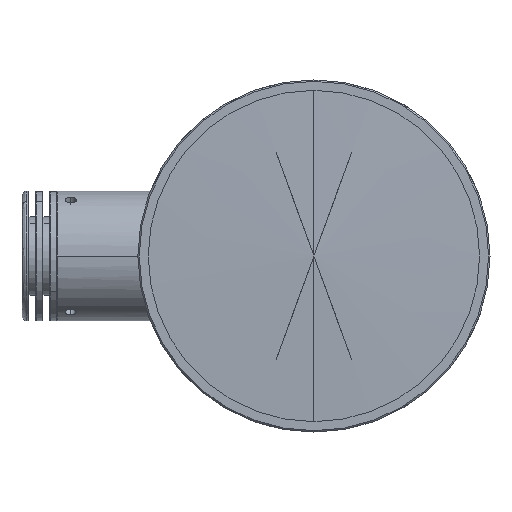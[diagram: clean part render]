
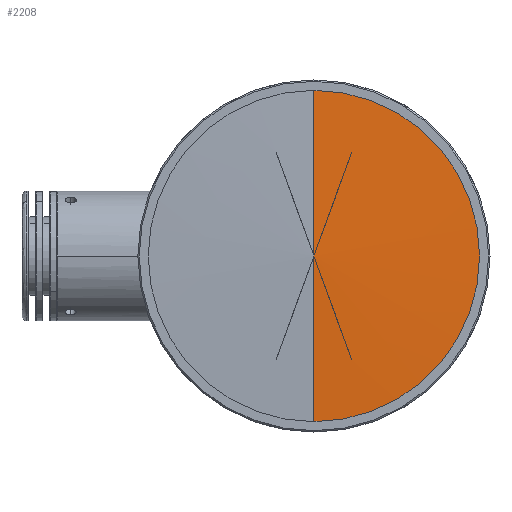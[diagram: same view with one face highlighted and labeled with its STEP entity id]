
A CAD part, left-side view. The second image highlights one B-rep face of the part: STEP entity #2208.
In plain terms, the highlighted conical face has half-angle 88.13 degrees and reference radius 36.775 mm.
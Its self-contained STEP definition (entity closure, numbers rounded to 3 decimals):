
#1571 = ORIENTED_EDGE ( 'NONE', *, *, #15983, .F. ) ;
#1922 = VERTEX_POINT ( 'NONE', #14607 ) ;
#2208 = ADVANCED_FACE ( 'NONE', ( #2729 ), #20080, .T. ) ;
#2399 = DIRECTION ( 'NONE',  ( 1., 0., 0. ) ) ;
#2435 = VERTEX_POINT ( 'NONE', #13533 ) ;
#2729 = FACE_OUTER_BOUND ( 'NONE', #5666, .T. ) ;
#4518 = ORIENTED_EDGE ( 'NONE', *, *, #29451, .F. ) ;
#4920 = DIRECTION ( 'NONE',  ( 0., 0., -1. ) ) ;
#5424 = CARTESIAN_POINT ( 'NONE',  ( 1.167, -35.75, 0. ) ) ;
#5666 = EDGE_LOOP ( 'NONE', ( #4518, #14566, #1571, #8764 ) ) ;
#6565 = CARTESIAN_POINT ( 'NONE',  ( 1.201, 0., -36.775 ) ) ;
#6943 = DIRECTION ( 'NONE',  ( 0., 0., -1. ) ) ;
#7446 = CARTESIAN_POINT ( 'NONE',  ( 1.201, 0., 0. ) ) ;
#8764 = ORIENTED_EDGE ( 'NONE', *, *, #19475, .F. ) ;
#11954 = AXIS2_PLACEMENT_3D ( 'NONE', #14292, #29385, #14397 ) ;
#13317 = CIRCLE ( 'NONE', #11954, 35.75 ) ;
#13533 = CARTESIAN_POINT ( 'NONE',  ( 0., 0., 0. ) ) ;
#14074 = LINE ( 'NONE', #6565, #21580 ) ;
#14292 = CARTESIAN_POINT ( 'NONE',  ( 1.167, 0., 0. ) ) ;
#14397 = DIRECTION ( 'NONE',  ( 0., 0., -1. ) ) ;
#14566 = ORIENTED_EDGE ( 'NONE', *, *, #24218, .T. ) ;
#14607 = CARTESIAN_POINT ( 'NONE',  ( 1.167, 0., -35.75 ) ) ;
#14988 = VECTOR ( 'NONE', #31187, 1000. ) ;
#15983 = EDGE_CURVE ( 'NONE', #23945, #1922, #18005, .T. ) ;
#16123 = AXIS2_PLACEMENT_3D ( 'NONE', #16459, #16232, #6943 ) ;
#16232 = DIRECTION ( 'NONE',  ( 1., 0., 0. ) ) ;
#16459 = CARTESIAN_POINT ( 'NONE',  ( 1.167, 0., 0. ) ) ;
#18005 = CIRCLE ( 'NONE', #16123, 35.75 ) ;
#18164 = VERTEX_POINT ( 'NONE', #27285 ) ;
#19041 = CARTESIAN_POINT ( 'NONE',  ( 1.201, 0., 36.775 ) ) ;
#19475 = EDGE_CURVE ( 'NONE', #18164, #23945, #13317, .T. ) ;
#20080 = CONICAL_SURFACE ( 'NONE', #29470, 36.775, 1.538 ) ;
#21580 = VECTOR ( 'NONE', #28261, 1000. ) ;
#23945 = VERTEX_POINT ( 'NONE', #5424 ) ;
#24218 = EDGE_CURVE ( 'NONE', #2435, #1922, #14074, .T. ) ;
#27013 = LINE ( 'NONE', #19041, #14988 ) ;
#27285 = CARTESIAN_POINT ( 'NONE',  ( 1.167, 0., 35.75 ) ) ;
#28261 = DIRECTION ( 'NONE',  ( 0.033, 0., -0.999 ) ) ;
#29385 = DIRECTION ( 'NONE',  ( 1., 0., 0. ) ) ;
#29451 = EDGE_CURVE ( 'NONE', #2435, #18164, #27013, .T. ) ;
#29470 = AXIS2_PLACEMENT_3D ( 'NONE', #7446, #2399, #4920 ) ;
#31187 = DIRECTION ( 'NONE',  ( 0.033, 0., 0.999 ) ) ;
